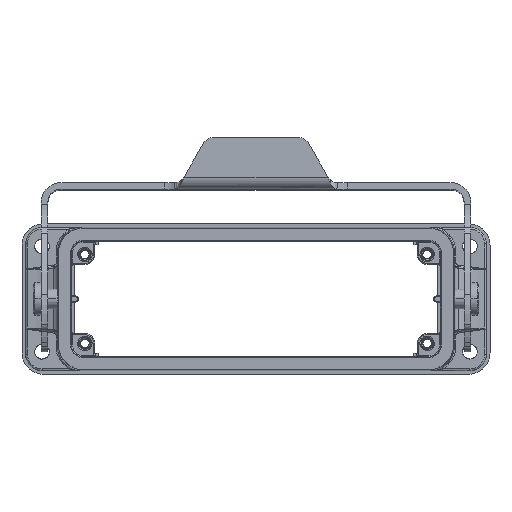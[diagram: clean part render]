
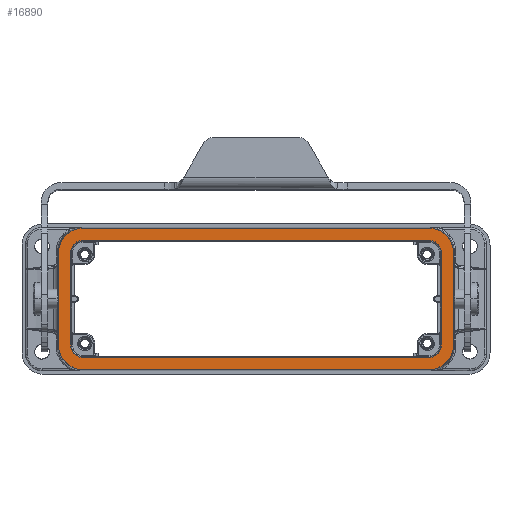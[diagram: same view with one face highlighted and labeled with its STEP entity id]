
A CAD part, top view. The second image highlights one B-rep face of the part: STEP entity #16890.
In plain terms, the highlighted planar face has unit normal (0, 0, 1) as drawn and (0, -1, 0) by its records, which use the part's own axes.
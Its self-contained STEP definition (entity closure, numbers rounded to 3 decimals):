
#135 = EDGE_CURVE ( 'NONE', #14031, #3489, #13608, .T. ) ;
#195 = LINE ( 'NONE', #16180, #4881 ) ;
#261 = VERTEX_POINT ( 'NONE', #12865 ) ;
#962 = ORIENTED_EDGE ( 'NONE', *, *, #24047, .F. ) ;
#1585 = CARTESIAN_POINT ( 'NONE',  ( 0., 0., -56.3 ) ) ;
#1615 = AXIS2_PLACEMENT_3D ( 'NONE', #7414, #26457, #24439 ) ;
#1682 = EDGE_CURVE ( 'NONE', #8099, #7500, #4941, .T. ) ;
#1871 = VERTEX_POINT ( 'NONE', #6424 ) ;
#1955 = DIRECTION ( 'NONE',  ( 0., -1., 0. ) ) ;
#2164 = CARTESIAN_POINT ( 'NONE',  ( -17.8, 0., 52.5 ) ) ;
#2311 = EDGE_CURVE ( 'NONE', #3489, #24525, #7590, .T. ) ;
#2471 = VERTEX_POINT ( 'NONE', #5581 ) ;
#2810 = EDGE_CURVE ( 'NONE', #24525, #18291, #12511, .T. ) ;
#3043 = LINE ( 'NONE', #3238, #4670 ) ;
#3238 = CARTESIAN_POINT ( 'NONE',  ( 0., 0., 60. ) ) ;
#3462 = EDGE_CURVE ( 'NONE', #1871, #8192, #22460, .T. ) ;
#3489 = VERTEX_POINT ( 'NONE', #18230 ) ;
#3968 = DIRECTION ( 'NONE',  ( 0., 1., 0. ) ) ;
#4116 = CARTESIAN_POINT ( 'NONE',  ( 14., 0., 56.3 ) ) ;
#4170 = DIRECTION ( 'NONE',  ( 0., 0., 1. ) ) ;
#4235 = DIRECTION ( 'NONE',  ( 0., 0., -1. ) ) ;
#4670 = VECTOR ( 'NONE', #5430, 1000. ) ;
#4881 = VECTOR ( 'NONE', #18389, 1000. ) ;
#4941 = LINE ( 'NONE', #20207, #20179 ) ;
#4970 = LINE ( 'NONE', #14666, #7908 ) ;
#5259 = VECTOR ( 'NONE', #7003, 1000. ) ;
#5430 = DIRECTION ( 'NONE',  ( 1., 0., 0. ) ) ;
#5581 = CARTESIAN_POINT ( 'NONE',  ( 14., 0., -56.3 ) ) ;
#5690 = DIRECTION ( 'NONE',  ( 0., 1., 0. ) ) ;
#5695 = DIRECTION ( 'NONE',  ( 0., 0., 1. ) ) ;
#5707 = VERTEX_POINT ( 'NONE', #10071 ) ;
#5874 = VECTOR ( 'NONE', #11870, 1000. ) ;
#6377 = EDGE_CURVE ( 'NONE', #12287, #14031, #16338, .T. ) ;
#6424 = CARTESIAN_POINT ( 'NONE',  ( 21.5, 0., 52.5 ) ) ;
#6783 = VERTEX_POINT ( 'NONE', #2164 ) ;
#6845 = EDGE_LOOP ( 'NONE', ( #10320, #14220, #21372, #23999, #962, #19013, #21948, #13975 ) ) ;
#6923 = CARTESIAN_POINT ( 'NONE',  ( -14., 0., -60. ) ) ;
#6927 = CARTESIAN_POINT ( 'NONE',  ( 17.8, 0., -52.5 ) ) ;
#7003 = DIRECTION ( 'NONE',  ( 0., 0., 1. ) ) ;
#7179 = DIRECTION ( 'NONE',  ( 0., 0., 1. ) ) ;
#7204 = VECTOR ( 'NONE', #16380, 1000. ) ;
#7414 = CARTESIAN_POINT ( 'NONE',  ( -14., 0., 52.5 ) ) ;
#7500 = VERTEX_POINT ( 'NONE', #20366 ) ;
#7590 = LINE ( 'NONE', #21711, #5259 ) ;
#7908 = VECTOR ( 'NONE', #5695, 1000. ) ;
#7924 = CARTESIAN_POINT ( 'NONE',  ( 14., 0., -60. ) ) ;
#7973 = CARTESIAN_POINT ( 'NONE',  ( -14., 0., 52.5 ) ) ;
#8099 = VERTEX_POINT ( 'NONE', #4116 ) ;
#8192 = VERTEX_POINT ( 'NONE', #24039 ) ;
#9162 = FACE_OUTER_BOUND ( 'NONE', #23597, .T. ) ;
#9582 = AXIS2_PLACEMENT_3D ( 'NONE', #7973, #1955, #22807 ) ;
#10071 = CARTESIAN_POINT ( 'NONE',  ( -17.8, 0., -52.5 ) ) ;
#10320 = ORIENTED_EDGE ( 'NONE', *, *, #1682, .F. ) ;
#11009 = EDGE_CURVE ( 'NONE', #18291, #261, #3043, .T. ) ;
#11344 = AXIS2_PLACEMENT_3D ( 'NONE', #23385, #23110, #18992 ) ;
#11400 = EDGE_CURVE ( 'NONE', #20561, #8099, #21554, .T. ) ;
#11535 = EDGE_CURVE ( 'NONE', #7500, #6783, #13587, .T. ) ;
#11579 = DIRECTION ( 'NONE',  ( 0., 0., 1. ) ) ;
#11870 = DIRECTION ( 'NONE',  ( 0., 0., -1. ) ) ;
#12137 = ORIENTED_EDGE ( 'NONE', *, *, #15486, .F. ) ;
#12287 = VERTEX_POINT ( 'NONE', #7924 ) ;
#12511 = CIRCLE ( 'NONE', #1615, 7.5 ) ;
#12582 = DIRECTION ( 'NONE',  ( 0., 0., -1. ) ) ;
#12865 = CARTESIAN_POINT ( 'NONE',  ( 14., 0., 60. ) ) ;
#13587 = CIRCLE ( 'NONE', #9582, 3.8 ) ;
#13593 = DIRECTION ( 'NONE',  ( 0., -1., 0. ) ) ;
#13608 = CIRCLE ( 'NONE', #26901, 7.5 ) ;
#13614 = EDGE_CURVE ( 'NONE', #5707, #13835, #20776, .T. ) ;
#13835 = VERTEX_POINT ( 'NONE', #16234 ) ;
#13975 = ORIENTED_EDGE ( 'NONE', *, *, #11535, .F. ) ;
#14029 = VECTOR ( 'NONE', #21873, 1000. ) ;
#14031 = VERTEX_POINT ( 'NONE', #6923 ) ;
#14105 = CARTESIAN_POINT ( 'NONE',  ( 0., 0., 0. ) ) ;
#14220 = ORIENTED_EDGE ( 'NONE', *, *, #11400, .F. ) ;
#14666 = CARTESIAN_POINT ( 'NONE',  ( 17.8, 0., 0. ) ) ;
#14930 = AXIS2_PLACEMENT_3D ( 'NONE', #16841, #19156, #4170 ) ;
#14952 = DIRECTION ( 'NONE',  ( 0., 1., 0. ) ) ;
#15103 = CARTESIAN_POINT ( 'NONE',  ( -14., 0., 60. ) ) ;
#15119 = ORIENTED_EDGE ( 'NONE', *, *, #16311, .F. ) ;
#15405 = CIRCLE ( 'NONE', #14930, 3.8 ) ;
#15486 = EDGE_CURVE ( 'NONE', #261, #1871, #16088, .T. ) ;
#16052 = EDGE_CURVE ( 'NONE', #6783, #5707, #195, .T. ) ;
#16088 = CIRCLE ( 'NONE', #11344, 7.5 ) ;
#16180 = CARTESIAN_POINT ( 'NONE',  ( -17.8, 0., 0. ) ) ;
#16234 = CARTESIAN_POINT ( 'NONE',  ( -14., 0., -56.3 ) ) ;
#16311 = EDGE_CURVE ( 'NONE', #8192, #12287, #19092, .T. ) ;
#16338 = LINE ( 'NONE', #23744, #14029 ) ;
#16380 = DIRECTION ( 'NONE',  ( 1., 0., 0. ) ) ;
#16435 = AXIS2_PLACEMENT_3D ( 'NONE', #22253, #17620, #7179 ) ;
#16719 = PLANE ( 'NONE',  #25871 ) ;
#16841 = CARTESIAN_POINT ( 'NONE',  ( 14., 0., -52.5 ) ) ;
#16890 = ADVANCED_FACE ( 'NONE', ( #22086, #9162 ), #16719, .F. ) ;
#17393 = ORIENTED_EDGE ( 'NONE', *, *, #3462, .F. ) ;
#17620 = DIRECTION ( 'NONE',  ( 0., -1., 0. ) ) ;
#18000 = CARTESIAN_POINT ( 'NONE',  ( 17.8, 0., 52.5 ) ) ;
#18230 = CARTESIAN_POINT ( 'NONE',  ( -21.5, 0., -52.5 ) ) ;
#18291 = VERTEX_POINT ( 'NONE', #15103 ) ;
#18389 = DIRECTION ( 'NONE',  ( 0., 0., -1. ) ) ;
#18404 = CARTESIAN_POINT ( 'NONE',  ( -14., 0., -52.5 ) ) ;
#18992 = DIRECTION ( 'NONE',  ( 0., 0., -1. ) ) ;
#19013 = ORIENTED_EDGE ( 'NONE', *, *, #13614, .F. ) ;
#19092 = CIRCLE ( 'NONE', #26926, 7.5 ) ;
#19156 = DIRECTION ( 'NONE',  ( 0., -1., 0. ) ) ;
#19595 = ORIENTED_EDGE ( 'NONE', *, *, #11009, .F. ) ;
#19606 = VERTEX_POINT ( 'NONE', #6927 ) ;
#20179 = VECTOR ( 'NONE', #20290, 1000. ) ;
#20207 = CARTESIAN_POINT ( 'NONE',  ( 0., 0., 56.3 ) ) ;
#20228 = ORIENTED_EDGE ( 'NONE', *, *, #2311, .F. ) ;
#20290 = DIRECTION ( 'NONE',  ( -1., 0., 0. ) ) ;
#20366 = CARTESIAN_POINT ( 'NONE',  ( -14., 0., 56.3 ) ) ;
#20561 = VERTEX_POINT ( 'NONE', #18000 ) ;
#20733 = EDGE_CURVE ( 'NONE', #19606, #20561, #4970, .T. ) ;
#20776 = CIRCLE ( 'NONE', #27317, 3.8 ) ;
#20993 = CARTESIAN_POINT ( 'NONE',  ( -14., 0., -52.5 ) ) ;
#21372 = ORIENTED_EDGE ( 'NONE', *, *, #20733, .F. ) ;
#21554 = CIRCLE ( 'NONE', #16435, 3.8 ) ;
#21594 = ORIENTED_EDGE ( 'NONE', *, *, #6377, .F. ) ;
#21711 = CARTESIAN_POINT ( 'NONE',  ( -21.5, 0., 0. ) ) ;
#21771 = DIRECTION ( 'NONE',  ( 0., 0., 1. ) ) ;
#21873 = DIRECTION ( 'NONE',  ( -1., 0., 0. ) ) ;
#21948 = ORIENTED_EDGE ( 'NONE', *, *, #16052, .F. ) ;
#22064 = ORIENTED_EDGE ( 'NONE', *, *, #135, .F. ) ;
#22086 = FACE_BOUND ( 'NONE', #6845, .T. ) ;
#22092 = LINE ( 'NONE', #1585, #7204 ) ;
#22253 = CARTESIAN_POINT ( 'NONE',  ( 14., 0., 52.5 ) ) ;
#22460 = LINE ( 'NONE', #24544, #5874 ) ;
#22807 = DIRECTION ( 'NONE',  ( 0., 0., 1. ) ) ;
#23110 = DIRECTION ( 'NONE',  ( 0., 1., 0. ) ) ;
#23385 = CARTESIAN_POINT ( 'NONE',  ( 14., 0., 52.5 ) ) ;
#23515 = CARTESIAN_POINT ( 'NONE',  ( 14., 0., -52.5 ) ) ;
#23597 = EDGE_LOOP ( 'NONE', ( #22064, #21594, #15119, #17393, #12137, #19595, #25634, #20228 ) ) ;
#23744 = CARTESIAN_POINT ( 'NONE',  ( 0., 0., -60. ) ) ;
#23999 = ORIENTED_EDGE ( 'NONE', *, *, #25246, .F. ) ;
#24039 = CARTESIAN_POINT ( 'NONE',  ( 21.5, 0., -52.5 ) ) ;
#24047 = EDGE_CURVE ( 'NONE', #13835, #2471, #22092, .T. ) ;
#24439 = DIRECTION ( 'NONE',  ( 0., 0., -1. ) ) ;
#24525 = VERTEX_POINT ( 'NONE', #27171 ) ;
#24544 = CARTESIAN_POINT ( 'NONE',  ( 21.5, 0., 0. ) ) ;
#25246 = EDGE_CURVE ( 'NONE', #2471, #19606, #15405, .T. ) ;
#25634 = ORIENTED_EDGE ( 'NONE', *, *, #2810, .F. ) ;
#25871 = AXIS2_PLACEMENT_3D ( 'NONE', #14105, #5690, #21771 ) ;
#26457 = DIRECTION ( 'NONE',  ( 0., 1., 0. ) ) ;
#26901 = AXIS2_PLACEMENT_3D ( 'NONE', #20993, #3968, #12582 ) ;
#26926 = AXIS2_PLACEMENT_3D ( 'NONE', #23515, #14952, #4235 ) ;
#27171 = CARTESIAN_POINT ( 'NONE',  ( -21.5, 0., 52.5 ) ) ;
#27317 = AXIS2_PLACEMENT_3D ( 'NONE', #18404, #13593, #11579 ) ;
